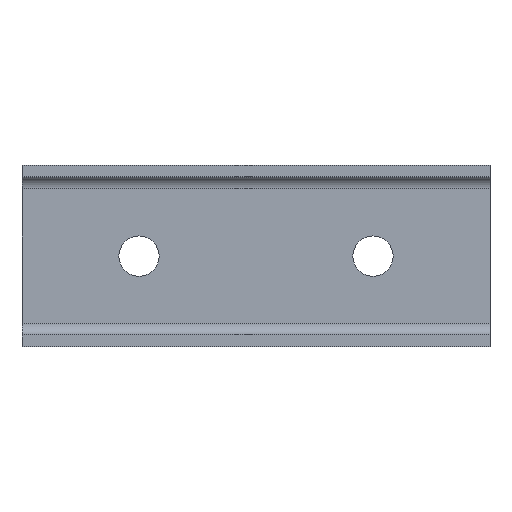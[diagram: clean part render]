
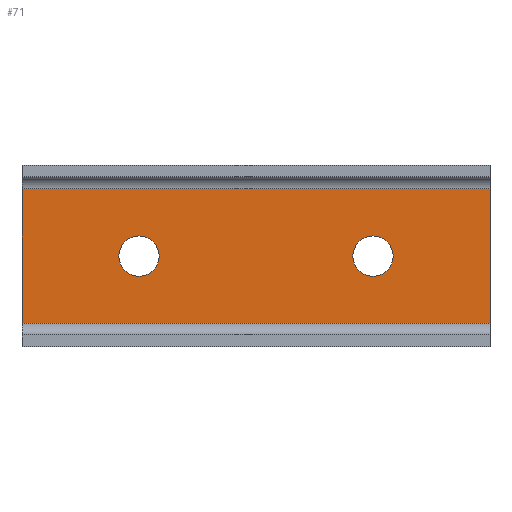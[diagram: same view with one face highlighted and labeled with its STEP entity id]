
A CAD part, top view. The second image highlights one B-rep face of the part: STEP entity #71.
In plain terms, the highlighted planar face has unit normal (0, 0, 1).
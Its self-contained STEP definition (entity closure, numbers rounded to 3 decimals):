
#5 = EDGE_CURVE ( 'NONE', #735, #646, #611, .T. ) ;
#9 = VERTEX_POINT ( 'NONE', #205 ) ;
#21 = VECTOR ( 'NONE', #37, 1000. ) ;
#26 = CARTESIAN_POINT ( 'NONE',  ( -40., 11.5, 2. ) ) ;
#37 = DIRECTION ( 'NONE',  ( 0., 1., 0. ) ) ;
#61 = VECTOR ( 'NONE', #162, 1000. ) ;
#64 = CARTESIAN_POINT ( 'NONE',  ( 40., -15.5, 2. ) ) ;
#71 = ADVANCED_FACE ( 'NONE', ( #451, #292, #345 ), #574, .T. ) ;
#87 = VERTEX_POINT ( 'NONE', #668 ) ;
#89 = LINE ( 'NONE', #442, #425 ) ;
#96 = AXIS2_PLACEMENT_3D ( 'NONE', #639, #528, #690 ) ;
#98 = LINE ( 'NONE', #145, #61 ) ;
#108 = CARTESIAN_POINT ( 'NONE',  ( 40., 11.5, 2. ) ) ;
#120 = VERTEX_POINT ( 'NONE', #349 ) ;
#145 = CARTESIAN_POINT ( 'NONE',  ( 40., 11.5, 2. ) ) ;
#147 = CIRCLE ( 'NONE', #311, 3.45 ) ;
#154 = CARTESIAN_POINT ( 'NONE',  ( -20., 0., 2. ) ) ;
#162 = DIRECTION ( 'NONE',  ( -1., 0., 0. ) ) ;
#181 = ORIENTED_EDGE ( 'NONE', *, *, #706, .F. ) ;
#194 = EDGE_CURVE ( 'NONE', #646, #305, #98, .T. ) ;
#201 = CARTESIAN_POINT ( 'NONE',  ( 40., -11.5, 2. ) ) ;
#205 = CARTESIAN_POINT ( 'NONE',  ( -40., -11.5, 2. ) ) ;
#222 = DIRECTION ( 'NONE',  ( 0., 0., 1. ) ) ;
#231 = DIRECTION ( 'NONE',  ( 0., -1., 0. ) ) ;
#292 = FACE_BOUND ( 'NONE', #350, .T. ) ;
#298 = VECTOR ( 'NONE', #673, 1000. ) ;
#305 = VERTEX_POINT ( 'NONE', #26 ) ;
#311 = AXIS2_PLACEMENT_3D ( 'NONE', #154, #339, #628 ) ;
#323 = CARTESIAN_POINT ( 'NONE',  ( 40., -15.5, 2. ) ) ;
#339 = DIRECTION ( 'NONE',  ( 0., 0., 1. ) ) ;
#343 = ORIENTED_EDGE ( 'NONE', *, *, #5, .T. ) ;
#345 = FACE_OUTER_BOUND ( 'NONE', #661, .T. ) ;
#348 = ORIENTED_EDGE ( 'NONE', *, *, #194, .T. ) ;
#349 = CARTESIAN_POINT ( 'NONE',  ( 20., -3.45, 2. ) ) ;
#350 = EDGE_LOOP ( 'NONE', ( #181 ) ) ;
#375 = CIRCLE ( 'NONE', #96, 3.45 ) ;
#425 = VECTOR ( 'NONE', #671, 1000. ) ;
#442 = CARTESIAN_POINT ( 'NONE',  ( -40., -15.5, 2. ) ) ;
#447 = LINE ( 'NONE', #563, #298 ) ;
#451 = FACE_BOUND ( 'NONE', #518, .T. ) ;
#513 = EDGE_CURVE ( 'NONE', #120, #120, #375, .T. ) ;
#518 = EDGE_LOOP ( 'NONE', ( #713 ) ) ;
#528 = DIRECTION ( 'NONE',  ( 0., 0., 1. ) ) ;
#556 = ORIENTED_EDGE ( 'NONE', *, *, #624, .F. ) ;
#563 = CARTESIAN_POINT ( 'NONE',  ( 40., -11.5, 2. ) ) ;
#574 = PLANE ( 'NONE',  #616 ) ;
#597 = EDGE_CURVE ( 'NONE', #9, #305, #89, .T. ) ;
#611 = LINE ( 'NONE', #323, #21 ) ;
#616 = AXIS2_PLACEMENT_3D ( 'NONE', #64, #222, #231 ) ;
#624 = EDGE_CURVE ( 'NONE', #735, #9, #447, .T. ) ;
#628 = DIRECTION ( 'NONE',  ( 0., -1., 0. ) ) ;
#636 = ORIENTED_EDGE ( 'NONE', *, *, #597, .F. ) ;
#639 = CARTESIAN_POINT ( 'NONE',  ( 20., 0., 2. ) ) ;
#646 = VERTEX_POINT ( 'NONE', #108 ) ;
#661 = EDGE_LOOP ( 'NONE', ( #636, #556, #343, #348 ) ) ;
#668 = CARTESIAN_POINT ( 'NONE',  ( -20., -3.45, 2. ) ) ;
#671 = DIRECTION ( 'NONE',  ( 0., 1., 0. ) ) ;
#673 = DIRECTION ( 'NONE',  ( -1., 0., 0. ) ) ;
#690 = DIRECTION ( 'NONE',  ( 0., -1., 0. ) ) ;
#706 = EDGE_CURVE ( 'NONE', #87, #87, #147, .T. ) ;
#713 = ORIENTED_EDGE ( 'NONE', *, *, #513, .F. ) ;
#735 = VERTEX_POINT ( 'NONE', #201 ) ;
